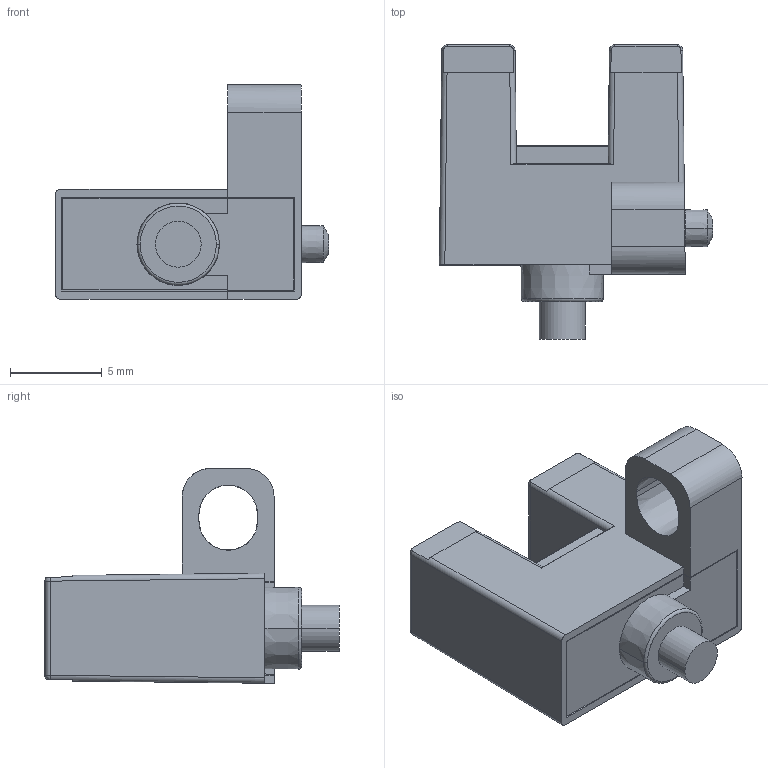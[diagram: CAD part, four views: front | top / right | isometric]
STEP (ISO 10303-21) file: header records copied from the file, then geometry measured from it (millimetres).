
FILE_DESCRIPTION((''),'2;1');
FILE_NAME('PM-R25_ASM','2018-06-23T14:49:11',('Administrator'),(''),'CREO PARAMETRIC BY PTC INC, 2016390','CREO PARAMETRIC BY PTC INC, 2016390','');
FILE_SCHEMA(('AUTOMOTIVE_DESIGN { 1 0 10303 214 1 1 1 1 }'));
Length unit declared in the file: millimetre
Products named in the file (3): PM-FR25_1; PM-FR25_2; PM-R25_ASM
Assembly tree (2 placements, depth 2):
  PM-R25_ASM
    PM-FR25_1
    PM-FR25_2
Bounding box: 14.9 x 16.05 x 11.71 mm (x, y, z)
Volume: 481.1 mm3; surface area: 1393.4 mm2
Topology: 3 solids, 3 shells, 171 faces, 469 edges, 301 vertices
Faces by surface type: plane 126, cylinder 25, cone 10, sphere 8, torus 2
Entity records: 5745 total; most frequent: CARTESIAN_POINT 1106, ORIENTED_EDGE 922, DIRECTION 842, EDGE_CURVE 461, VECTOR 360, LINE 360, VERTEX_POINT 301, AXIS2_PLACEMENT_3D 241
